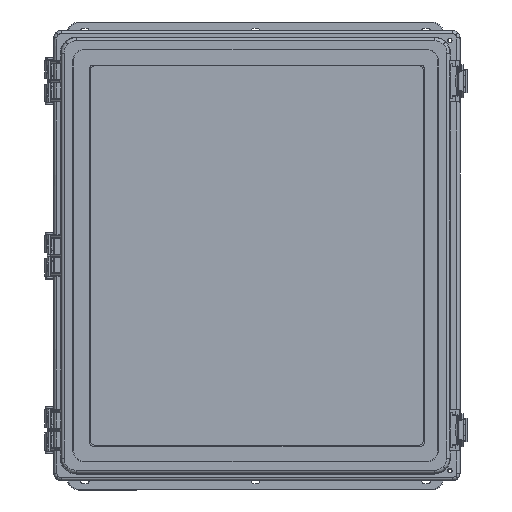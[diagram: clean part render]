
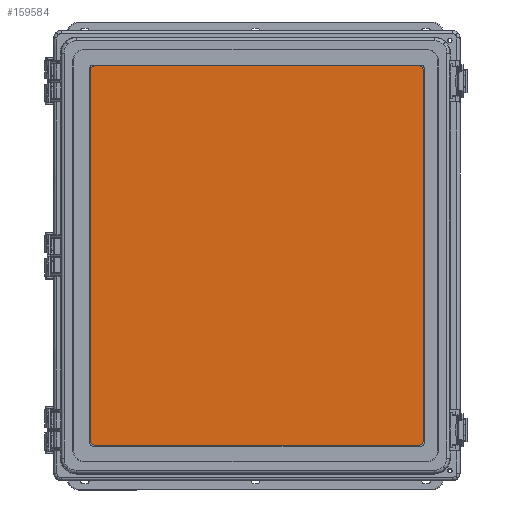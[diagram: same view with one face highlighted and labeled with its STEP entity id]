
A CAD part, top view. The second image highlights one B-rep face of the part: STEP entity #159584.
In plain terms, the highlighted planar face has unit normal (0, 0, 1) as drawn and (0, 0, -1) by its records, which use the part's own axes.
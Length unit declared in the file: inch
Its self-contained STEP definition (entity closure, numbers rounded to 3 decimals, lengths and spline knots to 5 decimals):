
#1132 = VERTEX_POINT ( 'NONE', #60977 ) ;
#2802 = CIRCLE ( 'NONE', #122635, 0.25 ) ;
#5251 = LINE ( 'NONE', #8787, #32396 ) ;
#5489 = CARTESIAN_POINT ( 'NONE',  ( -6.865, -7.865, 0. ) ) ;
#6501 = LINE ( 'NONE', #64458, #37829 ) ;
#8787 = CARTESIAN_POINT ( 'NONE',  ( -7.115, 8.115, 0. ) ) ;
#9343 = VECTOR ( 'NONE', #141375, 39.37008 ) ;
#10626 = EDGE_CURVE ( 'NONE', #92903, #1132, #114215, .T. ) ;
#13883 = AXIS2_PLACEMENT_3D ( 'NONE', #88310, #76622, #169769 ) ;
#13900 = EDGE_CURVE ( 'NONE', #128331, #64706, #5251, .T. ) ;
#15212 = CARTESIAN_POINT ( 'NONE',  ( 6.865, 7.865, 0. ) ) ;
#18913 = DIRECTION ( 'NONE',  ( 1., 0., 0. ) ) ;
#19678 = DIRECTION ( 'NONE',  ( 0., 0., -1. ) ) ;
#23909 = VERTEX_POINT ( 'NONE', #98847 ) ;
#28459 = EDGE_CURVE ( 'NONE', #43348, #48347, #171669, .T. ) ;
#28594 = DIRECTION ( 'NONE',  ( 1., 0., 0. ) ) ;
#32396 = VECTOR ( 'NONE', #142727, 39.37008 ) ;
#34138 = PLANE ( 'NONE',  #13883 ) ;
#35130 = EDGE_CURVE ( 'NONE', #92903, #23909, #85138, .T. ) ;
#36514 = CARTESIAN_POINT ( 'NONE',  ( 7.115, 8.115, 0. ) ) ;
#37829 = VECTOR ( 'NONE', #130766, 39.37008 ) ;
#40512 = ORIENTED_EDGE ( 'NONE', *, *, #13900, .F. ) ;
#40638 = CARTESIAN_POINT ( 'NONE',  ( -6.865, 7.865, 0. ) ) ;
#43348 = VERTEX_POINT ( 'NONE', #83439 ) ;
#44758 = LINE ( 'NONE', #76166, #9343 ) ;
#48347 = VERTEX_POINT ( 'NONE', #130503 ) ;
#50539 = DIRECTION ( 'NONE',  ( 0., 1., 0. ) ) ;
#50753 = EDGE_CURVE ( 'NONE', #43348, #1132, #6501, .T. ) ;
#56113 = DIRECTION ( 'NONE',  ( 0., 0., -1. ) ) ;
#59526 = ORIENTED_EDGE ( 'NONE', *, *, #162400, .T. ) ;
#60977 = CARTESIAN_POINT ( 'NONE',  ( 6.865, -8.115, 0. ) ) ;
#63008 = EDGE_CURVE ( 'NONE', #160299, #48347, #44758, .T. ) ;
#64458 = CARTESIAN_POINT ( 'NONE',  ( -7.115, -8.115, 0. ) ) ;
#64706 = VERTEX_POINT ( 'NONE', #107110 ) ;
#68907 = AXIS2_PLACEMENT_3D ( 'NONE', #135856, #56113, #149243 ) ;
#75732 = ORIENTED_EDGE ( 'NONE', *, *, #63008, .F. ) ;
#76166 = CARTESIAN_POINT ( 'NONE',  ( -7.115, 8.115, 0. ) ) ;
#76622 = DIRECTION ( 'NONE',  ( 0., 0., 1. ) ) ;
#83439 = CARTESIAN_POINT ( 'NONE',  ( -6.865, -8.115, 0. ) ) ;
#85138 = LINE ( 'NONE', #36514, #151781 ) ;
#87785 = CIRCLE ( 'NONE', #148053, 0.25 ) ;
#88310 = CARTESIAN_POINT ( 'NONE',  ( -7.115, -8.115, 0. ) ) ;
#92903 = VERTEX_POINT ( 'NONE', #129201 ) ;
#95181 = ORIENTED_EDGE ( 'NONE', *, *, #28459, .T. ) ;
#97257 = ORIENTED_EDGE ( 'NONE', *, *, #35130, .F. ) ;
#98760 = DIRECTION ( 'NONE',  ( 0., 0., -1. ) ) ;
#98847 = CARTESIAN_POINT ( 'NONE',  ( 7.115, 7.865, 0. ) ) ;
#104363 = AXIS2_PLACEMENT_3D ( 'NONE', #5489, #98760, #18913 ) ;
#107110 = CARTESIAN_POINT ( 'NONE',  ( -6.865, 8.115, 0. ) ) ;
#108393 = DIRECTION ( 'NONE',  ( 0., 0., -1. ) ) ;
#108790 = ORIENTED_EDGE ( 'NONE', *, *, #50753, .F. ) ;
#112860 = DIRECTION ( 'NONE',  ( 1., 0., 0. ) ) ;
#114215 = CIRCLE ( 'NONE', #68907, 0.25 ) ;
#117772 = EDGE_LOOP ( 'NONE', ( #97257, #142293, #108790, #95181, #75732, #165676, #40512, #59526 ) ) ;
#122635 = AXIS2_PLACEMENT_3D ( 'NONE', #40638, #19678, #112860 ) ;
#128331 = VERTEX_POINT ( 'NONE', #165525 ) ;
#129201 = CARTESIAN_POINT ( 'NONE',  ( 7.115, -7.865, 0. ) ) ;
#130503 = CARTESIAN_POINT ( 'NONE',  ( -7.115, -7.865, 0. ) ) ;
#130766 = DIRECTION ( 'NONE',  ( 1., 0., 0. ) ) ;
#135856 = CARTESIAN_POINT ( 'NONE',  ( 6.865, -7.865, 0. ) ) ;
#138036 = CARTESIAN_POINT ( 'NONE',  ( -7.115, 7.865, 0. ) ) ;
#141375 = DIRECTION ( 'NONE',  ( 0., -1., 0. ) ) ;
#142293 = ORIENTED_EDGE ( 'NONE', *, *, #10626, .T. ) ;
#142727 = DIRECTION ( 'NONE',  ( -1., 0., 0. ) ) ;
#144547 = EDGE_CURVE ( 'NONE', #160299, #64706, #2802, .T. ) ;
#146530 = FACE_OUTER_BOUND ( 'NONE', #117772, .T. ) ;
#148053 = AXIS2_PLACEMENT_3D ( 'NONE', #15212, #108393, #28594 ) ;
#149243 = DIRECTION ( 'NONE',  ( 1., 0., 0. ) ) ;
#151781 = VECTOR ( 'NONE', #50539, 39.37008 ) ;
#159584 = ADVANCED_FACE ( 'NONE', ( #146530 ), #34138, .F. ) ;
#160299 = VERTEX_POINT ( 'NONE', #138036 ) ;
#162400 = EDGE_CURVE ( 'NONE', #128331, #23909, #87785, .T. ) ;
#165525 = CARTESIAN_POINT ( 'NONE',  ( 6.865, 8.115, 0. ) ) ;
#165676 = ORIENTED_EDGE ( 'NONE', *, *, #144547, .T. ) ;
#169769 = DIRECTION ( 'NONE',  ( 1., 0., 0. ) ) ;
#171669 = CIRCLE ( 'NONE', #104363, 0.25 ) ;
